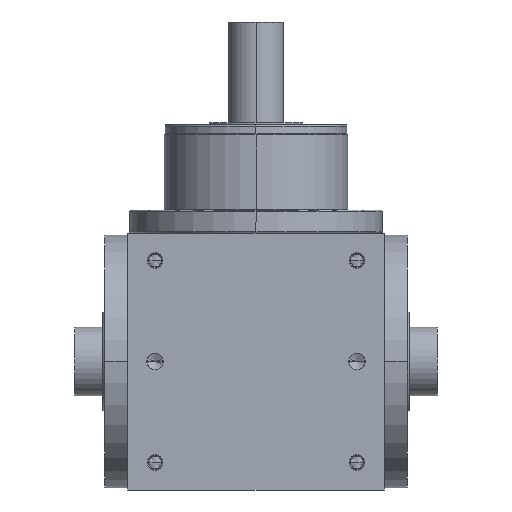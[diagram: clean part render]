
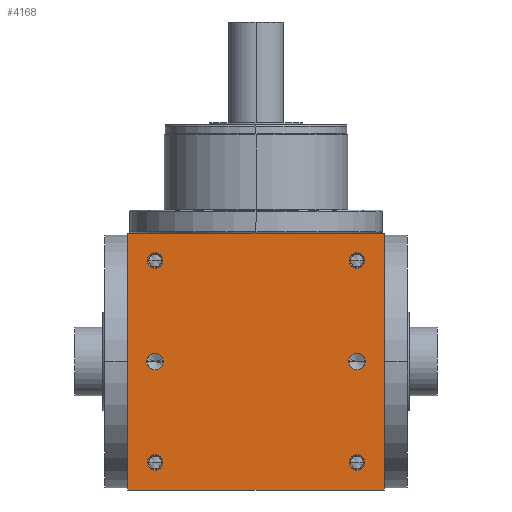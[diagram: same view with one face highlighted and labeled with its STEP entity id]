
A CAD part, front view. The second image highlights one B-rep face of the part: STEP entity #4168.
In plain terms, the highlighted planar face has unit normal (0, -1, 0).
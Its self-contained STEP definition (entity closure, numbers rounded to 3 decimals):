
#5=DIRECTION('',(1.,0.,0.));
#6=VECTOR('',#5,280.);
#7=CARTESIAN_POINT('',(-140.,-140.,-140.));
#8=LINE('',#7,#6);
#155=DIRECTION('',(0.,0.,1.));
#156=VECTOR('',#155,280.);
#157=CARTESIAN_POINT('',(140.,-140.,-140.));
#158=LINE('',#157,#156);
#209=DIRECTION('',(0.,0.,1.));
#210=VECTOR('',#209,280.);
#211=CARTESIAN_POINT('',(-140.,-140.,-140.));
#212=LINE('',#211,#210);
#213=CARTESIAN_POINT('',(110.,-140.,110.));
#214=DIRECTION('',(0.,1.,0.));
#215=DIRECTION('',(-1.,0.,0.));
#216=AXIS2_PLACEMENT_3D('',#213,#214,#215);
#218=CARTESIAN_POINT('',(110.,-140.,110.));
#219=DIRECTION('',(0.,1.,0.));
#220=DIRECTION('',(1.,0.,0.));
#221=AXIS2_PLACEMENT_3D('',#218,#219,#220);
#223=CARTESIAN_POINT('',(-110.,-140.,110.));
#224=DIRECTION('',(0.,1.,0.));
#225=DIRECTION('',(-1.,0.,0.));
#226=AXIS2_PLACEMENT_3D('',#223,#224,#225);
#228=CARTESIAN_POINT('',(-110.,-140.,110.));
#229=DIRECTION('',(0.,1.,0.));
#230=DIRECTION('',(1.,0.,0.));
#231=AXIS2_PLACEMENT_3D('',#228,#229,#230);
#233=CARTESIAN_POINT('',(110.,-140.,-110.));
#234=DIRECTION('',(0.,1.,0.));
#235=DIRECTION('',(-1.,0.,0.));
#236=AXIS2_PLACEMENT_3D('',#233,#234,#235);
#238=CARTESIAN_POINT('',(110.,-140.,-110.));
#239=DIRECTION('',(0.,1.,0.));
#240=DIRECTION('',(1.,0.,0.));
#241=AXIS2_PLACEMENT_3D('',#238,#239,#240);
#243=CARTESIAN_POINT('',(-110.,-140.,-110.));
#244=DIRECTION('',(0.,1.,0.));
#245=DIRECTION('',(-1.,0.,0.));
#246=AXIS2_PLACEMENT_3D('',#243,#244,#245);
#248=CARTESIAN_POINT('',(-110.,-140.,-110.));
#249=DIRECTION('',(0.,1.,0.));
#250=DIRECTION('',(1.,0.,0.));
#251=AXIS2_PLACEMENT_3D('',#248,#249,#250);
#253=CARTESIAN_POINT('',(-110.,-140.,0.));
#254=DIRECTION('',(0.,1.,0.));
#255=DIRECTION('',(1.,0.,0.));
#256=AXIS2_PLACEMENT_3D('',#253,#254,#255);
#258=CARTESIAN_POINT('',(-110.,-140.,0.));
#259=DIRECTION('',(0.,1.,0.));
#260=DIRECTION('',(-1.,0.,0.));
#261=AXIS2_PLACEMENT_3D('',#258,#259,#260);
#263=CARTESIAN_POINT('',(110.,-140.,0.));
#264=DIRECTION('',(0.,1.,0.));
#265=DIRECTION('',(1.,0.,0.));
#266=AXIS2_PLACEMENT_3D('',#263,#264,#265);
#268=CARTESIAN_POINT('',(110.,-140.,0.));
#269=DIRECTION('',(0.,1.,0.));
#270=DIRECTION('',(-1.,0.,0.));
#271=AXIS2_PLACEMENT_3D('',#268,#269,#270);
#285=DIRECTION('',(1.,0.,0.));
#286=VECTOR('',#285,280.);
#287=CARTESIAN_POINT('',(-140.,-140.,140.));
#288=LINE('',#287,#286);
#3342=CARTESIAN_POINT('',(-140.,-140.,-140.));
#3344=VERTEX_POINT('',#3342);
#3345=CARTESIAN_POINT('',(140.,-140.,-140.));
#3346=VERTEX_POINT('',#3345);
#3350=CARTESIAN_POINT('',(-140.,-140.,140.));
#3352=VERTEX_POINT('',#3350);
#3353=CARTESIAN_POINT('',(140.,-140.,140.));
#3354=VERTEX_POINT('',#3353);
#3509=CARTESIAN_POINT('',(101.6,-140.,110.));
#3510=CARTESIAN_POINT('',(118.4,-140.,110.));
#3511=VERTEX_POINT('',#3509);
#3512=VERTEX_POINT('',#3510);
#3517=CARTESIAN_POINT('',(-118.4,-140.,110.));
#3518=CARTESIAN_POINT('',(-101.6,-140.,110.));
#3519=VERTEX_POINT('',#3517);
#3520=VERTEX_POINT('',#3518);
#3525=CARTESIAN_POINT('',(101.6,-140.,-110.));
#3526=CARTESIAN_POINT('',(118.4,-140.,-110.));
#3527=VERTEX_POINT('',#3525);
#3528=VERTEX_POINT('',#3526);
#3533=CARTESIAN_POINT('',(-118.4,-140.,-110.));
#3534=CARTESIAN_POINT('',(-101.6,-140.,-110.));
#3535=VERTEX_POINT('',#3533);
#3536=VERTEX_POINT('',#3534);
#3857=CARTESIAN_POINT('',(-100.95,-140.,0.));
#3858=CARTESIAN_POINT('',(-119.05,-140.,0.));
#3859=VERTEX_POINT('',#3857);
#3860=VERTEX_POINT('',#3858);
#3865=CARTESIAN_POINT('',(119.05,-140.,0.));
#3866=CARTESIAN_POINT('',(100.95,-140.,0.));
#3867=VERTEX_POINT('',#3865);
#3868=VERTEX_POINT('',#3866);
#4120=CARTESIAN_POINT('',(-140.,-140.,-140.));
#4121=DIRECTION('',(0.,-1.,0.));
#4122=DIRECTION('',(1.,0.,0.));
#4123=AXIS2_PLACEMENT_3D('',#4120,#4121,#4122);
#4124=PLANE('',#4123);
#4125=ORIENTED_EDGE('',*,*,#3960,.F.);
#4126=ORIENTED_EDGE('',*,*,#4003,.T.);
#4128=ORIENTED_EDGE('',*,*,#4127,.T.);
#4129=ORIENTED_EDGE('',*,*,#4082,.F.);
#4130=EDGE_LOOP('',(#4125,#4126,#4128,#4129));
#4131=FACE_OUTER_BOUND('',#4130,.F.);
#4133=ORIENTED_EDGE('',*,*,#4132,.F.);
#4135=ORIENTED_EDGE('',*,*,#4134,.F.);
#4136=EDGE_LOOP('',(#4133,#4135));
#4137=FACE_BOUND('',#4136,.F.);
#4139=ORIENTED_EDGE('',*,*,#4138,.F.);
#4141=ORIENTED_EDGE('',*,*,#4140,.F.);
#4142=EDGE_LOOP('',(#4139,#4141));
#4143=FACE_BOUND('',#4142,.F.);
#4145=ORIENTED_EDGE('',*,*,#4144,.F.);
#4147=ORIENTED_EDGE('',*,*,#4146,.F.);
#4148=EDGE_LOOP('',(#4145,#4147));
#4149=FACE_BOUND('',#4148,.F.);
#4151=ORIENTED_EDGE('',*,*,#4150,.F.);
#4153=ORIENTED_EDGE('',*,*,#4152,.F.);
#4154=EDGE_LOOP('',(#4151,#4153));
#4155=FACE_BOUND('',#4154,.F.);
#4157=ORIENTED_EDGE('',*,*,#4156,.F.);
#4159=ORIENTED_EDGE('',*,*,#4158,.F.);
#4160=EDGE_LOOP('',(#4157,#4159));
#4161=FACE_BOUND('',#4160,.F.);
#4163=ORIENTED_EDGE('',*,*,#4162,.F.);
#4165=ORIENTED_EDGE('',*,*,#4164,.F.);
#4166=EDGE_LOOP('',(#4163,#4165));
#4167=FACE_BOUND('',#4166,.F.);
#4168=ADVANCED_FACE('',(#4131,#4137,#4143,#4149,#4155,#4161,#4167),#4124,.T.);
#217=CIRCLE('',#216,8.4);
#222=CIRCLE('',#221,8.4);
#227=CIRCLE('',#226,8.4);
#232=CIRCLE('',#231,8.4);
#237=CIRCLE('',#236,8.4);
#242=CIRCLE('',#241,8.4);
#247=CIRCLE('',#246,8.4);
#252=CIRCLE('',#251,8.4);
#257=CIRCLE('',#256,9.05);
#262=CIRCLE('',#261,9.05);
#267=CIRCLE('',#266,9.05);
#272=CIRCLE('',#271,9.05);
#3960=EDGE_CURVE('',#3344,#3346,#8,.T.);
#4003=EDGE_CURVE('',#3344,#3352,#212,.T.);
#4082=EDGE_CURVE('',#3346,#3354,#158,.T.);
#4127=EDGE_CURVE('',#3352,#3354,#288,.T.);
#4132=EDGE_CURVE('',#3511,#3512,#217,.T.);
#4134=EDGE_CURVE('',#3512,#3511,#222,.T.);
#4138=EDGE_CURVE('',#3519,#3520,#227,.T.);
#4140=EDGE_CURVE('',#3520,#3519,#232,.T.);
#4144=EDGE_CURVE('',#3527,#3528,#237,.T.);
#4146=EDGE_CURVE('',#3528,#3527,#242,.T.);
#4150=EDGE_CURVE('',#3535,#3536,#247,.T.);
#4152=EDGE_CURVE('',#3536,#3535,#252,.T.);
#4156=EDGE_CURVE('',#3859,#3860,#257,.T.);
#4158=EDGE_CURVE('',#3860,#3859,#262,.T.);
#4162=EDGE_CURVE('',#3867,#3868,#267,.T.);
#4164=EDGE_CURVE('',#3868,#3867,#272,.T.);
